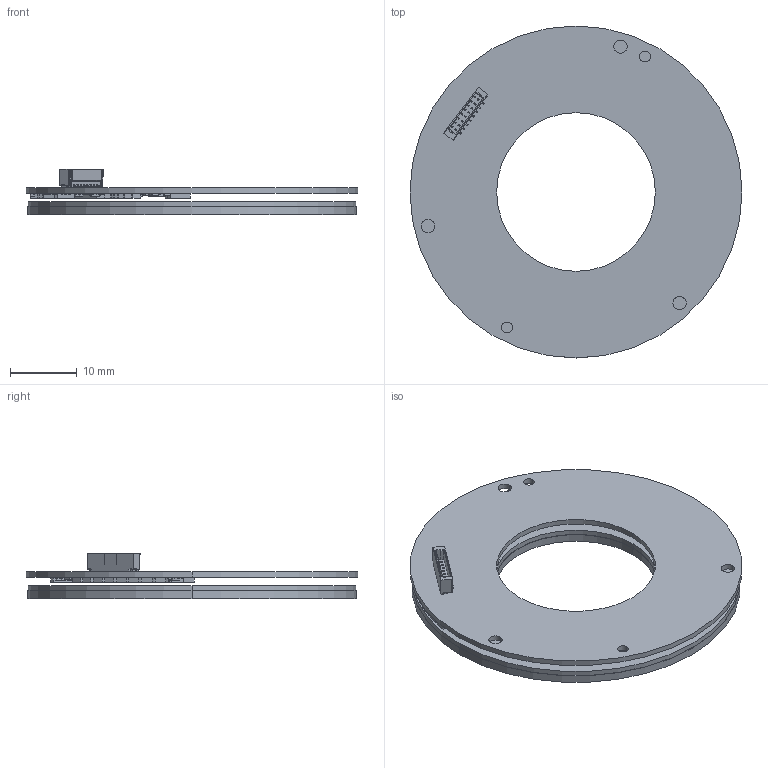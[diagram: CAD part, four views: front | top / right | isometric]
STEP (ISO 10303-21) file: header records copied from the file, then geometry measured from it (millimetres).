
FILE_DESCRIPTION((''),'2;1');
FILE_NAME('EAS-J068KP-HD----PRBS摩傖_68杶璃_ASM','2026-09-02T',('guxinfeng'),(''),'PRO/ENGINEER BY PARAMETRIC TECHNOLOGY CORPORATION, 2012480','PRO/ENGINEER BY PARAMETRIC TECHNOLOGY CORPORATION, 2012480','');
FILE_SCHEMA(('CONFIG_CONTROL_DESIGN'));
Products named in the file (219): OPEN_CASCADE_STEP_TRANSLATO-306; BOARD_ASM; OPEN_CASCADE_STEP_TRANSLATO-677; OPEN_CASCADE_STEP_TRANSLAT-1150; TERMINAL-663_ASM; OPEN_CASCADE_STEP_TRANSLAT-1646; MID_BODY-1636_ASM; 7075984096_ASM; C17_ASM; OPEN_CASCADE_STEP_TRANSLAT-2032; OPEN_CASCADE_STEP_TRANSLAT-2505; TERMINAL-2018_ASM; OPEN_CASCADE_STEP_TRANSLAT-3001; MID_BODY-2991_ASM; 5907573936_ASM; C26_ASM; MID_BODY-3374; OPEN_CASCADE_STEP_TRANSLAT-3560; TERMINAL-3550_ASM; MARK-3872; 7075983216_ASM; R11_ASM; EXTRUDED; 6843234048_ASM; D1_ASM; MID_BODY-4314; OPEN_CASCADE_STEP_TRANSLAT-4500; TERMINAL-4490_ASM; MARK-4812; 7075983456_ASM; R2_ASM; MID_BODY-5039; OPEN_CASCADE_STEP_TRANSLAT-5225; TERMINAL-5215_ASM; MARK-5537; 7202804448_ASM; R9_ASM; OPEN_CASCADE_STEP_TRANSLAT-5777; OPEN_CASCADE_STEP_TRANSLAT-6250; TERMINAL-5763_ASM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
Assembly tree (267 placements, depth 6):
  EAS-J068KP-HD----PRBS摩傖_68杶璃_ASM
    PCB_ASM
      BOARD_ASM
        OPEN_CASCADE_STEP_TRANSLATO-306
      C17_ASM
        7075984096_ASM
          TERMINAL-663_ASM
            OPEN_CASCADE_STEP_TRANSLATO-677
            OPEN_CASCADE_STEP_TRANSLAT-1150
          MID_BODY-1636_ASM
            OPEN_CASCADE_STEP_TRANSLAT-1646
      C26_ASM
        5907573936_ASM
          TERMINAL-2018_ASM
            OPEN_CASCADE_STEP_TRANSLAT-2032
            OPEN_CASCADE_STEP_TRANSLAT-2505
          MID_BODY-2991_ASM
            OPEN_CASCADE_STEP_TRANSLAT-3001
      R11_ASM
        7075983216_ASM
          MID_BODY-3374
          TERMINAL-3550_ASM  x2
            OPEN_CASCADE_STEP_TRANSLAT-3560
          MARK-3872
      D1_ASM
        6843234048_ASM
          EXTRUDED
      R2_ASM
        7075983456_ASM
          MID_BODY-4314
          TERMINAL-4490_ASM  x2
            OPEN_CASCADE_STEP_TRANSLAT-4500
          MARK-4812
      R9_ASM
        7202804448_ASM
          MID_BODY-5039
          TERMINAL-5215_ASM  x2
            OPEN_CASCADE_STEP_TRANSLAT-5225
          MARK-5537
      C3_ASM
        7202804768_ASM
          TERMINAL-5763_ASM
            OPEN_CASCADE_STEP_TRANSLAT-5777
            OPEN_CASCADE_STEP_TRANSLAT-6250
          MID_BODY-6736_ASM
            OPEN_CASCADE_STEP_TRANSLAT-6746
      R1_ASM
        7202804288_ASM
          MID_BODY-7119
          TERMINAL-7295_ASM  x2
            OPEN_CASCADE_STEP_TRANSLAT-7305
          MARK-7617
      C10_ASM
        5907573936_ASM
          TERMINAL-2018_ASM
            OPEN_CASCADE_STEP_TRANSLAT-2032
            OPEN_CASCADE_STEP_TRANSLAT-2505
          MID_BODY-2991_ASM
            OPEN_CASCADE_STEP_TRANSLAT-3001
      C1_ASM
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Bounding box: 49.6 x 49.6 x 6.84 mm (x, y, z)
Volume: 3748.7 mm3; surface area: 9740 mm2
Topology: 190 solids, 194 shells, 5036 faces, 13561 edges, 8694 vertices
Faces by surface type: plane 3684, cylinder 952, sphere 200, extrusion 188, torus 8, cone 4
Entity records: 122572 total; most frequent: CARTESIAN_POINT 17568, DIRECTION 15630, ORIENTED_EDGE 15532, PRESENTATION_STYLE_ASSIGNMENT 8294, STYLED_ITEM 7927, CURVE_STYLE 7812, EDGE_CURVE 7766, VECTOR 6540
